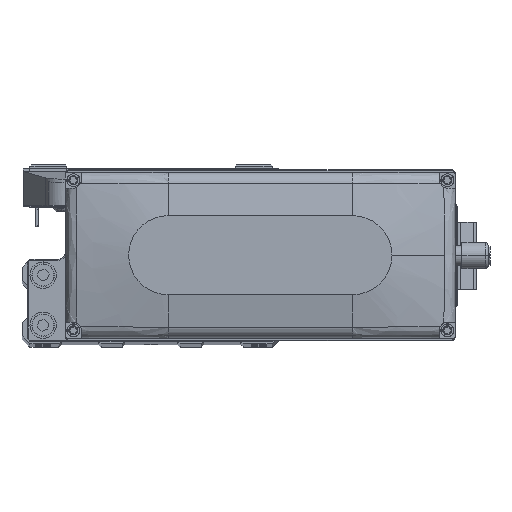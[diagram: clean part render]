
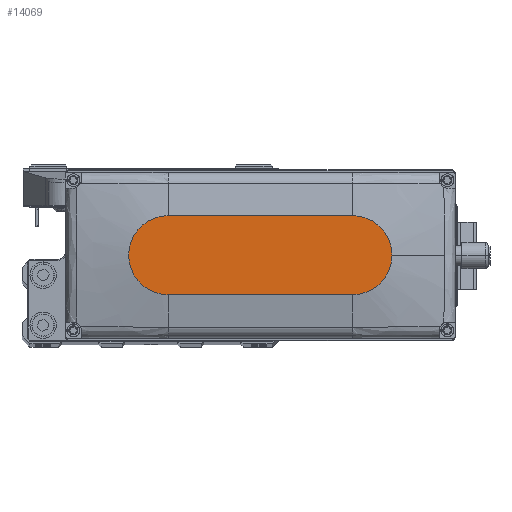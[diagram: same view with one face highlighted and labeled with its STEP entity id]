
A CAD part, top view. The second image highlights one B-rep face of the part: STEP entity #14069.
In plain terms, the highlighted planar face has unit normal (0, 0, 1).
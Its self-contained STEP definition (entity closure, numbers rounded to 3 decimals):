
#409 = AXIS2_PLACEMENT_3D ( 'NONE', #8374, #22650, #36895 ) ;
#1989 = CARTESIAN_POINT ( 'NONE',  ( 0., 0., 35. ) ) ;
#3106 = LINE ( 'NONE', #17366, #39355 ) ;
#4461 = CIRCLE ( 'NONE', #30606, 15. ) ;
#6246 = ORIENTED_EDGE ( 'NONE', *, *, #8700, .T. ) ;
#7499 = CARTESIAN_POINT ( 'NONE',  ( -35., -15., 35. ) ) ;
#8249 = CARTESIAN_POINT ( 'NONE',  ( -35., -15., 35. ) ) ;
#8374 = CARTESIAN_POINT ( 'NONE',  ( 35., 0., 35. ) ) ;
#8700 = EDGE_CURVE ( 'NONE', #20574, #13799, #40257, .T. ) ;
#9410 = VERTEX_POINT ( 'NONE', #10717 ) ;
#9476 = ORIENTED_EDGE ( 'NONE', *, *, #19154, .T. ) ;
#10717 = CARTESIAN_POINT ( 'NONE',  ( 35., 15., 35. ) ) ;
#11030 = ORIENTED_EDGE ( 'NONE', *, *, #24463, .T. ) ;
#11618 = DIRECTION ( 'NONE',  ( 0., 0., 1. ) ) ;
#11866 = VECTOR ( 'NONE', #22523, 1000. ) ;
#13799 = VERTEX_POINT ( 'NONE', #17209 ) ;
#13820 = DIRECTION ( 'NONE',  ( 1., 0., 0. ) ) ;
#14069 = ADVANCED_FACE ( 'NONE', ( #19755 ), #34020, .T. ) ;
#16241 = DIRECTION ( 'NONE',  ( 0., 0., 1. ) ) ;
#17209 = CARTESIAN_POINT ( 'NONE',  ( 35., -15., 35. ) ) ;
#17366 = CARTESIAN_POINT ( 'NONE',  ( -35., 15., 35. ) ) ;
#19154 = EDGE_CURVE ( 'NONE', #39065, #9410, #4461, .T. ) ;
#19662 = CARTESIAN_POINT ( 'NONE',  ( 50., 0., 35. ) ) ;
#19755 = FACE_OUTER_BOUND ( 'NONE', #22872, .T. ) ;
#20275 = AXIS2_PLACEMENT_3D ( 'NONE', #43626, #11618, #25894 ) ;
#20574 = VERTEX_POINT ( 'NONE', #7499 ) ;
#20577 = CIRCLE ( 'NONE', #409, 15. ) ;
#21035 = AXIS2_PLACEMENT_3D ( 'NONE', #1989, #16241, #30497 ) ;
#22523 = DIRECTION ( 'NONE',  ( 1., 0., 0. ) ) ;
#22650 = DIRECTION ( 'NONE',  ( 0., 0., 1. ) ) ;
#22872 = EDGE_LOOP ( 'NONE', ( #26407, #24163, #6246, #11030, #9476 ) ) ;
#24163 = ORIENTED_EDGE ( 'NONE', *, *, #36958, .T. ) ;
#24463 = EDGE_CURVE ( 'NONE', #13799, #39065, #20577, .T. ) ;
#25894 = DIRECTION ( 'NONE',  ( 1., 0., 0. ) ) ;
#26407 = ORIENTED_EDGE ( 'NONE', *, *, #31657, .T. ) ;
#30497 = DIRECTION ( 'NONE',  ( 1., 0., 0. ) ) ;
#30606 = AXIS2_PLACEMENT_3D ( 'NONE', #31582, #45829, #13820 ) ;
#31582 = CARTESIAN_POINT ( 'NONE',  ( 35., 0., 35. ) ) ;
#31620 = DIRECTION ( 'NONE',  ( -1., 0., 0. ) ) ;
#31657 = EDGE_CURVE ( 'NONE', #9410, #42881, #3106, .T. ) ;
#34020 = PLANE ( 'NONE',  #21035 ) ;
#36895 = DIRECTION ( 'NONE',  ( 1., 0., 0. ) ) ;
#36958 = EDGE_CURVE ( 'NONE', #42881, #20574, #40386, .T. ) ;
#39065 = VERTEX_POINT ( 'NONE', #19662 ) ;
#39355 = VECTOR ( 'NONE', #31620, 1000. ) ;
#40257 = LINE ( 'NONE', #8249, #11866 ) ;
#40386 = CIRCLE ( 'NONE', #20275, 15. ) ;
#42657 = CARTESIAN_POINT ( 'NONE',  ( -35., 15., 35. ) ) ;
#42881 = VERTEX_POINT ( 'NONE', #42657 ) ;
#43626 = CARTESIAN_POINT ( 'NONE',  ( -35., 0., 35. ) ) ;
#45829 = DIRECTION ( 'NONE',  ( 0., 0., 1. ) ) ;
